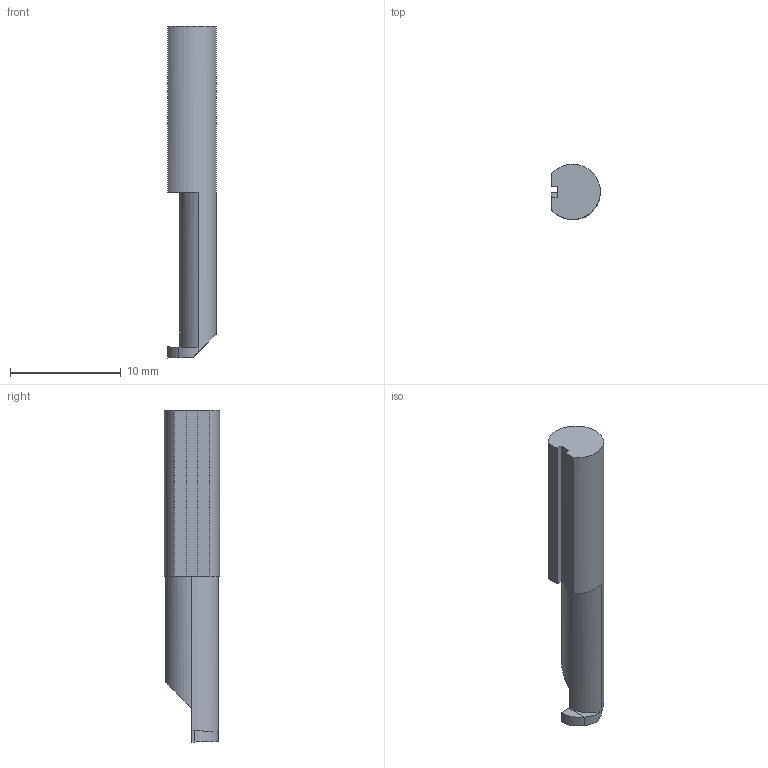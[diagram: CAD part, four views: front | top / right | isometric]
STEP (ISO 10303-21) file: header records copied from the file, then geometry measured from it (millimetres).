
FILE_DESCRIPTION(('CATIA V5 STEP Exchange'),'2;1');
FILE_NAME('I:\isr\design\admin8\users\weaam_s\6402348.L.stp','2012-01-10T08:46:40+00:00',('none'),('none'),'CATIA Version 5 Release 19 SP 7 (IN-10)','CATIA V5 STEP AP214','none');
FILE_SCHEMA(('AUTOMOTIVE_DESIGN { 1 0 10303 214 1 1 1 1 }'));
Length unit declared in the file: millimetre
Products named in the file (1): 60894085_0 Assembly PICCO R 005.0100-15
Bounding box: 4.4 x 5 x 30 mm (x, y, z)
Volume: 412.8 mm3; surface area: 456.1 mm2
Topology: 2 solids, 2 shells, 25 faces, 63 edges, 42 vertices
Faces by surface type: plane 18, cylinder 7
Entity records: 803 total; most frequent: CARTESIAN_POINT 195, ORIENTED_EDGE 126, DIRECTION 100, EDGE_CURVE 63, VECTOR 43, LINE 43, VERTEX_POINT 42, AXIS2_PLACEMENT_3D 34
